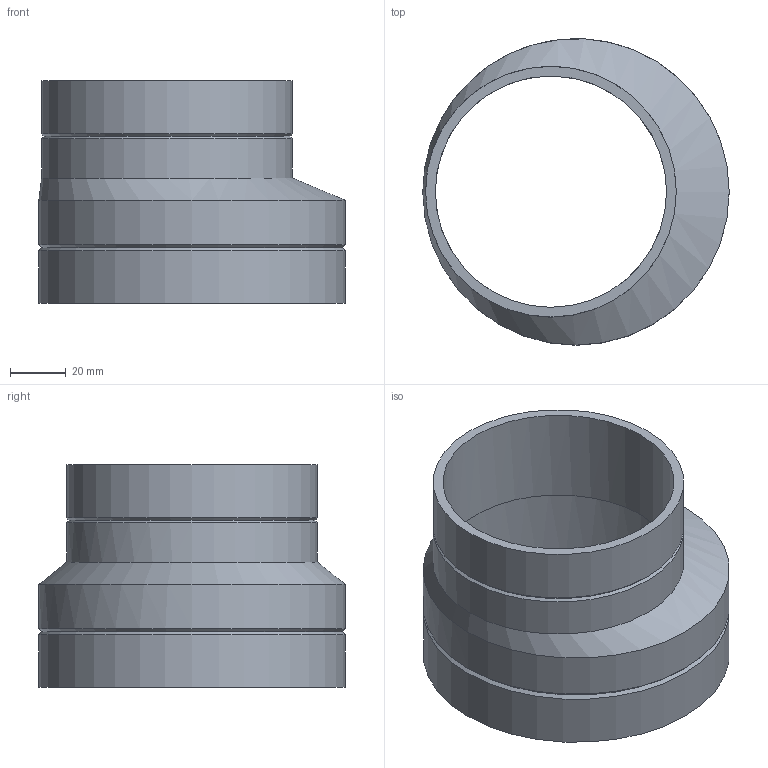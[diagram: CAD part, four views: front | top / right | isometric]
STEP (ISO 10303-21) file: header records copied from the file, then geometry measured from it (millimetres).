
FILE_DESCRIPTION(/* description */ (''),/* implementation_level */ '2;1');
FILE_NAME(/* name */ 'Z:\Geberit\Export\NewStep\367581.stp',/* time_stamp */ '2014-04-02T07:57:54+02:00',/* author */ ('nelson'),/* organization */ (''),/* preprocessor_version */ 'ST-DEVELOPER v15.2',/* originating_system */ 'Autodesk Inventor 2014',/* authorisation */ '');
FILE_SCHEMA (('AUTOMOTIVE_DESIGN { 1 0 10303 214 3 1 1 }'));
Length unit declared in the file: millimetre
Products named in the file (1): 367581
Bounding box: 110 x 110 x 80 mm (x, y, z)
Volume: 94932.8 mm3; surface area: 54510.2 mm2
Topology: 1 solids, 1 shells, 14 faces, 34 edges, 22 vertices
Faces by surface type: cylinder 6, cone 4, bspline 2, plane 2
Full cylindrical faces by diameter (mm): 83 x1, 90 x2, 101.4 x1, 110 x2
Entity records: 397 total; most frequent: CARTESIAN_POINT 89, DIRECTION 62, ORIENTED_EDGE 40, AXIS2_PLACEMENT_3D 31, EDGE_LOOP 26, EDGE_CURVE 20, CIRCLE 18, VERTEX_POINT 18
